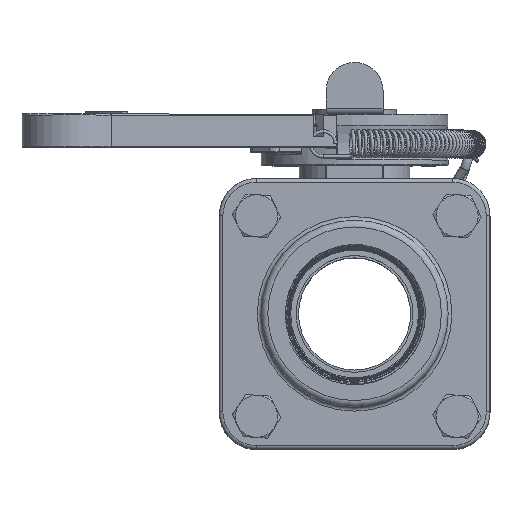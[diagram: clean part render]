
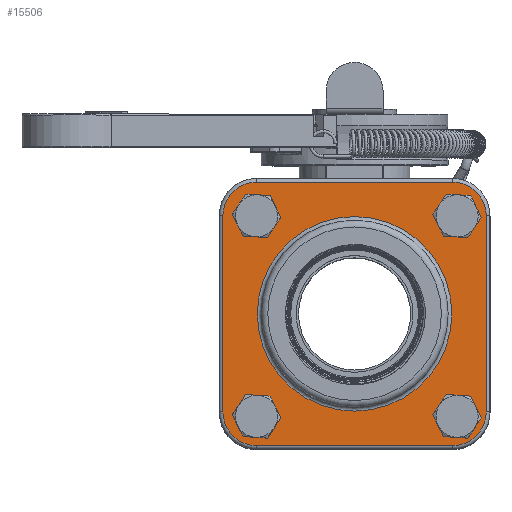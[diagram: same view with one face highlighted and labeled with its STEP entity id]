
A CAD part, top view. The second image highlights one B-rep face of the part: STEP entity #15506.
In plain terms, the highlighted planar face has unit normal (0, 0, 1) as drawn and (1, 0, 0) by its records, which use the part's own axes.
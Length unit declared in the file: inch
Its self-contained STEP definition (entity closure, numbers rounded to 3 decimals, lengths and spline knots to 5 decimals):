
#4182=PLANE('',#16605);
#4842=VECTOR('',#19135,1.);
#4845=VECTOR('',#19142,1.);
#4846=VECTOR('',#19161,1.);
#4849=VECTOR('',#19168,1.);
#5575=LINE('',#52586,#4842);
#5578=LINE('',#52593,#4845);
#5579=LINE('',#52610,#4846);
#5582=LINE('',#52617,#4849);
#6719=VERTEX_POINT('',#52557);
#6721=VERTEX_POINT('',#52562);
#6723=VERTEX_POINT('',#52567);
#6725=VERTEX_POINT('',#52572);
#6727=VERTEX_POINT('',#52576);
#6728=VERTEX_POINT('',#52578);
#6731=VERTEX_POINT('',#52585);
#6732=VERTEX_POINT('',#52590);
#6735=VERTEX_POINT('',#52597);
#6736=VERTEX_POINT('',#52602);
#6739=VERTEX_POINT('',#52609);
#6740=VERTEX_POINT('',#52614);
#6747=VERTEX_POINT('',#52641);
#7316=CIRCLE('',#16565,0.4826);
#7318=CIRCLE('',#16568,0.4826);
#7320=CIRCLE('',#16571,0.4826);
#7322=CIRCLE('',#16574,0.4826);
#7324=CIRCLE('',#16577,1.143);
#7330=CIRCLE('',#16586,1.143);
#7334=CIRCLE('',#16591,1.143);
#7338=CIRCLE('',#16598,1.143);
#7341=CIRCLE('',#16606,3.302);
#8985=EDGE_CURVE('',#6719,#6719,#7316,.T.);
#8987=EDGE_CURVE('',#6721,#6721,#7318,.T.);
#8989=EDGE_CURVE('',#6723,#6723,#7320,.T.);
#8991=EDGE_CURVE('',#6725,#6725,#7322,.T.);
#8993=EDGE_CURVE('',#6727,#6728,#7324,.T.);
#8997=EDGE_CURVE('',#6731,#6727,#5575,.T.);
#9001=EDGE_CURVE('',#6728,#6732,#5578,.T.);
#9003=EDGE_CURVE('',#6735,#6731,#7330,.T.);
#9007=EDGE_CURVE('',#6732,#6736,#7334,.T.);
#9009=EDGE_CURVE('',#6739,#6735,#5579,.T.);
#9013=EDGE_CURVE('',#6736,#6740,#5582,.T.);
#9015=EDGE_CURVE('',#6740,#6739,#7338,.T.);
#9025=EDGE_CURVE('',#6747,#6747,#7341,.T.);
#12485=ORIENTED_EDGE('',*,*,#8985,.T.);
#12486=ORIENTED_EDGE('',*,*,#8987,.T.);
#12487=ORIENTED_EDGE('',*,*,#8989,.T.);
#12488=ORIENTED_EDGE('',*,*,#8991,.T.);
#12489=ORIENTED_EDGE('',*,*,#9025,.F.);
#12490=ORIENTED_EDGE('',*,*,#8993,.F.);
#12491=ORIENTED_EDGE('',*,*,#8997,.F.);
#12492=ORIENTED_EDGE('',*,*,#9003,.F.);
#12493=ORIENTED_EDGE('',*,*,#9009,.F.);
#12494=ORIENTED_EDGE('',*,*,#9015,.F.);
#12495=ORIENTED_EDGE('',*,*,#9013,.F.);
#12496=ORIENTED_EDGE('',*,*,#9007,.F.);
#12497=ORIENTED_EDGE('',*,*,#9001,.F.);
#13762=EDGE_LOOP('',(#12485));
#13763=EDGE_LOOP('',(#12486));
#13764=EDGE_LOOP('',(#12487));
#13765=EDGE_LOOP('',(#12488));
#13766=EDGE_LOOP('',(#12489));
#13767=EDGE_LOOP('',(#12490,#12491,#12492,#12493,#12494,#12495,#12496,#12497));
#14670=FACE_BOUND('',#13762,.T.);
#14671=FACE_BOUND('',#13763,.T.);
#14672=FACE_BOUND('',#13764,.T.);
#14673=FACE_BOUND('',#13765,.T.);
#14674=FACE_BOUND('',#13766,.T.);
#14675=FACE_BOUND('',#13767,.T.);
#15506=ADVANCED_FACE('',(#14670,#14671,#14672,#14673,#14674,#14675),#4182,
 .T.);
#16565=AXIS2_PLACEMENT_3D('',#52556,#19102,#19103);
#16568=AXIS2_PLACEMENT_3D('',#52561,#19108,#19109);
#16571=AXIS2_PLACEMENT_3D('',#52566,#19114,#19115);
#16574=AXIS2_PLACEMENT_3D('',#52571,#19120,#19121);
#16577=AXIS2_PLACEMENT_3D('',#52577,#19125,#19126);
#16586=AXIS2_PLACEMENT_3D('',#52598,#19146,#19147);
#16591=AXIS2_PLACEMENT_3D('',#52605,#19155,#19156);
#16598=AXIS2_PLACEMENT_3D('',#52620,#19172,#19173);
#16605=AXIS2_PLACEMENT_3D('',#52639,#19191,$);
#16606=AXIS2_PLACEMENT_3D('',#52640,#19192,#19193);
#19102=DIRECTION('',(-1.,0.,0.));
#19103=DIRECTION('',(0.,-0.483,0.));
#19108=DIRECTION('',(-1.,0.,0.));
#19109=DIRECTION('',(0.,0.,0.483));
#19114=DIRECTION('',(-1.,0.,0.));
#19115=DIRECTION('',(0.,0.483,0.));
#19120=DIRECTION('',(-1.,0.,0.));
#19121=DIRECTION('',(0.,0.,-0.483));
#19125=DIRECTION('',(-1.,0.,0.));
#19126=DIRECTION('',(0.,0.808,0.808));
#19135=DIRECTION('',(0.,1.,0.));
#19142=DIRECTION('',(0.,0.,-1.));
#19146=DIRECTION('',(-1.,0.,0.));
#19147=DIRECTION('',(0.,-0.808,0.808));
#19155=DIRECTION('',(-1.,0.,0.));
#19156=DIRECTION('',(0.,0.808,-0.808));
#19161=DIRECTION('',(0.,0.,1.));
#19168=DIRECTION('',(0.,-1.,0.));
#19172=DIRECTION('',(-1.,0.,0.));
#19173=DIRECTION('',(0.,-0.808,-0.808));
#19191=DIRECTION('',(1.,0.,0.));
#19192=DIRECTION('',(1.,0.,0.));
#19193=DIRECTION('',(0.,0.,3.302));
#52556=CARTESIAN_POINT('',(1.6002,-3.3274,-3.3274));
#52557=CARTESIAN_POINT('',(1.6002,-2.8448,-3.3274));
#52561=CARTESIAN_POINT('',(1.6002,-3.3274,3.3274));
#52562=CARTESIAN_POINT('',(1.6002,-3.3274,2.8448));
#52566=CARTESIAN_POINT('',(1.6002,3.3274,3.3274));
#52567=CARTESIAN_POINT('',(1.6002,2.8448,3.3274));
#52571=CARTESIAN_POINT('',(1.6002,3.3274,-3.3274));
#52572=CARTESIAN_POINT('',(1.6002,3.3274,-2.8448));
#52576=CARTESIAN_POINT('',(1.6002,3.3274,4.4704));
#52577=CARTESIAN_POINT('',(1.6002,3.3274,3.3274));
#52578=CARTESIAN_POINT('',(1.6002,4.4704,3.3274));
#52585=CARTESIAN_POINT('',(1.6002,-3.3274,4.4704));
#52586=CARTESIAN_POINT('',(1.6002,0.,4.4704));
#52590=CARTESIAN_POINT('',(1.6002,4.4704,-3.3274));
#52593=CARTESIAN_POINT('',(1.6002,4.4704,0.));
#52597=CARTESIAN_POINT('',(1.6002,-4.4704,3.3274));
#52598=CARTESIAN_POINT('',(1.6002,-3.3274,3.3274));
#52602=CARTESIAN_POINT('',(1.6002,3.3274,-4.4704));
#52605=CARTESIAN_POINT('',(1.6002,3.3274,-3.3274));
#52609=CARTESIAN_POINT('',(1.6002,-4.4704,-3.3274));
#52610=CARTESIAN_POINT('',(1.6002,-4.4704,0.));
#52614=CARTESIAN_POINT('',(1.6002,-3.3274,-4.4704));
#52617=CARTESIAN_POINT('',(1.6002,0.,-4.4704));
#52620=CARTESIAN_POINT('',(1.6002,-3.3274,-3.3274));
#52639=CARTESIAN_POINT('',(1.6002,0.,0.));
#52640=CARTESIAN_POINT('',(1.6002,0.,0.));
#52641=CARTESIAN_POINT('',(1.6002,0.,-3.302));
